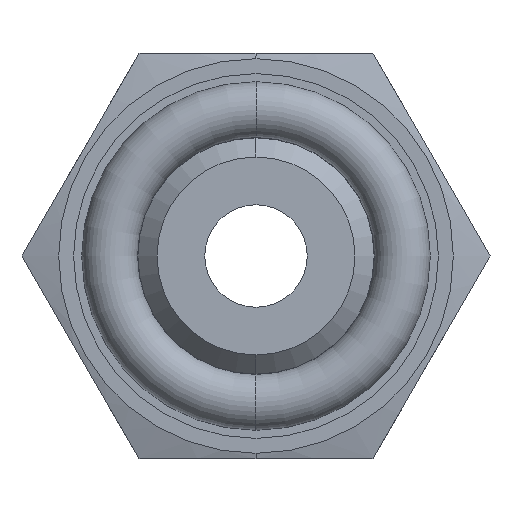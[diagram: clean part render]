
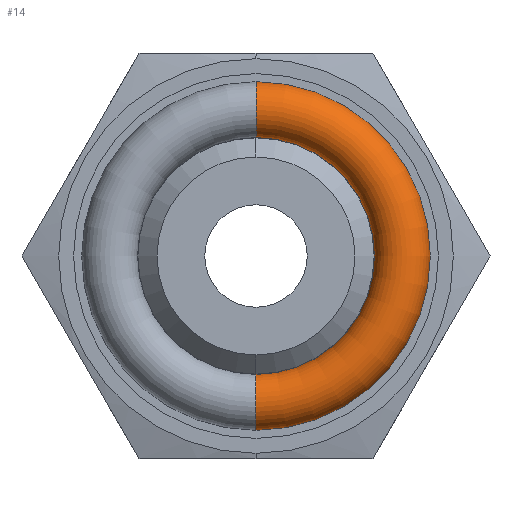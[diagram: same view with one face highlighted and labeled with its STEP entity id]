
A CAD part, left-side view. The second image highlights one B-rep face of the part: STEP entity #14.
In plain terms, the highlighted toroidal (fillet/blend) face has major radius 6.86 mm and minor radius 1.31 mm.
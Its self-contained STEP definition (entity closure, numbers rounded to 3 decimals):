
#9 = VERTEX_POINT ( 'NONE', #662 ) ;
#10 = ORIENTED_EDGE ( 'NONE', *, *, #12, .F. ) ;
#11 = VERTEX_POINT ( 'NONE', #661 ) ;
#12 = EDGE_CURVE ( 'NONE', #11, #9, #660, .T. ) ;
#13 = EDGE_LOOP ( 'NONE', ( #10, #18, #50, #46 ) ) ;
#14 = ADVANCED_FACE ( 'NONE', ( #655 ), #654, .T. ) ;
#17 = VERTEX_POINT ( 'NONE', #653 ) ;
#18 = ORIENTED_EDGE ( 'NONE', *, *, #19, .T. ) ;
#19 = EDGE_CURVE ( 'NONE', #11, #17, #648, .T. ) ;
#46 = ORIENTED_EDGE ( 'NONE', *, *, #47, .F. ) ;
#47 = EDGE_CURVE ( 'NONE', #9, #48, #708, .T. ) ;
#48 = VERTEX_POINT ( 'NONE', #761 ) ;
#49 = EDGE_CURVE ( 'NONE', #17, #48, #760, .T. ) ;
#50 = ORIENTED_EDGE ( 'NONE', *, *, #49, .T. ) ;
#644 = DIRECTION ( 'NONE',  ( 0., 0., 1. ) ) ;
#645 = DIRECTION ( 'NONE',  ( -1., 0., 0. ) ) ;
#646 = CARTESIAN_POINT ( 'NONE',  ( -3.61, 0., 0. ) ) ;
#647 = AXIS2_PLACEMENT_3D ( 'NONE', #646, #645, #644 ) ;
#648 = CIRCLE ( 'NONE', #647, 8.17 ) ;
#649 = DIRECTION ( 'NONE',  ( 0., 0., 1. ) ) ;
#650 = DIRECTION ( 'NONE',  ( -1., 0., 0. ) ) ;
#651 = CARTESIAN_POINT ( 'NONE',  ( -3.61, 0., 0. ) ) ;
#652 = AXIS2_PLACEMENT_3D ( 'NONE', #651, #650, #649 ) ;
#653 = CARTESIAN_POINT ( 'NONE',  ( -3.61, 0., 8.17 ) ) ;
#654 = TOROIDAL_SURFACE ( 'NONE', #652, 6.86, 1.31 ) ;
#655 = FACE_OUTER_BOUND ( 'NONE', #13, .T. ) ;
#656 = DIRECTION ( 'NONE',  ( 0., 0., 1. ) ) ;
#657 = DIRECTION ( 'NONE',  ( 0., 1., 0. ) ) ;
#658 = CARTESIAN_POINT ( 'NONE',  ( -3.61, 0., -6.86 ) ) ;
#659 = AXIS2_PLACEMENT_3D ( 'NONE', #658, #657, #656 ) ;
#660 = CIRCLE ( 'NONE', #659, 1.31 ) ;
#661 = CARTESIAN_POINT ( 'NONE',  ( -3.61, 0., -8.17 ) ) ;
#662 = CARTESIAN_POINT ( 'NONE',  ( -3.61, 0., -5.55 ) ) ;
#700 = DIRECTION ( 'NONE',  ( 0., 0., 1. ) ) ;
#701 = DIRECTION ( 'NONE',  ( -1., 0., 0. ) ) ;
#702 = CARTESIAN_POINT ( 'NONE',  ( -3.61, 0., 0. ) ) ;
#703 = AXIS2_PLACEMENT_3D ( 'NONE', #702, #701, #700 ) ;
#708 = CIRCLE ( 'NONE', #703, 5.55 ) ;
#756 = DIRECTION ( 'NONE',  ( 0., 0., -1. ) ) ;
#757 = DIRECTION ( 'NONE',  ( 0., -1., 0. ) ) ;
#758 = CARTESIAN_POINT ( 'NONE',  ( -3.61, 0., 6.86 ) ) ;
#759 = AXIS2_PLACEMENT_3D ( 'NONE', #758, #757, #756 ) ;
#760 = CIRCLE ( 'NONE', #759, 1.31 ) ;
#761 = CARTESIAN_POINT ( 'NONE',  ( -3.61, 0., 5.55 ) ) ;
